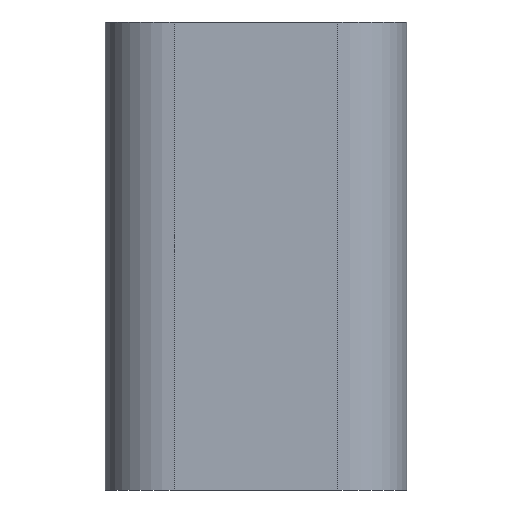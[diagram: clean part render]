
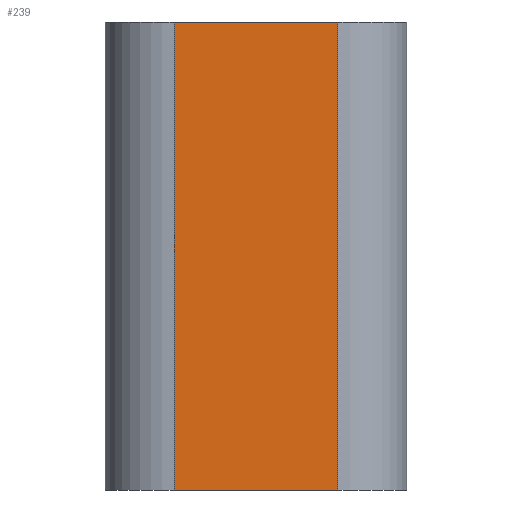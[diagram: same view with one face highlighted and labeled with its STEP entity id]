
A CAD part, front view. The second image highlights one B-rep face of the part: STEP entity #239.
In plain terms, the highlighted planar face has unit normal (0, -1, 0).
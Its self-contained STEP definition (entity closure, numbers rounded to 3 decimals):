
#187=CARTESIAN_POINT('Vertex',(-7.,-11.,0.)) ;
#190=CARTESIAN_POINT('Line Origine',(-7.,-11.,37.3)) ;
#194=CARTESIAN_POINT('Vertex',(-7.,-11.,74.6)) ;
#209=CARTESIAN_POINT('Axis2P3D Location',(19.,-11.,0.)) ;
#214=CARTESIAN_POINT('Line Origine',(6.,-11.,0.)) ;
#218=CARTESIAN_POINT('Vertex',(19.,-11.,0.)) ;
#221=CARTESIAN_POINT('Line Origine',(19.,-11.,37.3)) ;
#225=CARTESIAN_POINT('Vertex',(19.,-11.,74.6)) ;
#228=CARTESIAN_POINT('Line Origine',(6.,-11.,74.6)) ;
#191=DIRECTION('Vector Direction',(0.,0.,1.)) ;
#210=DIRECTION('Axis2P3D Direction',(0.,1.,-0.)) ;
#211=DIRECTION('Axis2P3D XDirection',(-1.,0.,0.)) ;
#215=DIRECTION('Vector Direction',(-1.,0.,0.)) ;
#222=DIRECTION('Vector Direction',(0.,0.,1.)) ;
#229=DIRECTION('Vector Direction',(1.,0.,0.)) ;
#212=AXIS2_PLACEMENT_3D('Plane Axis2P3D',#209,#210,#211) ;
#234=ORIENTED_EDGE('',*,*,#196,.F.) ;
#235=ORIENTED_EDGE('',*,*,#220,.T.) ;
#236=ORIENTED_EDGE('',*,*,#227,.T.) ;
#237=ORIENTED_EDGE('',*,*,#232,.F.) ;
#192=VECTOR('Line Direction',#191,1.) ;
#216=VECTOR('Line Direction',#215,1.) ;
#223=VECTOR('Line Direction',#222,1.) ;
#230=VECTOR('Line Direction',#229,1.) ;
#239=ADVANCED_FACE('Corps principal',(#238),#213,.F.) ;
#196=EDGE_CURVE('',#188,#195,#193,.T.) ;
#220=EDGE_CURVE('',#188,#219,#217,.F.) ;
#227=EDGE_CURVE('',#219,#226,#224,.T.) ;
#232=EDGE_CURVE('',#195,#226,#231,.T.) ;
#233=EDGE_LOOP('',(#234,#235,#236,#237)) ;
#238=FACE_OUTER_BOUND('',#233,.T.) ;
#193=LINE('Line',#190,#192) ;
#217=LINE('Line',#214,#216) ;
#224=LINE('Line',#221,#223) ;
#231=LINE('Line',#228,#230) ;
#213=PLANE('Plane',#212) ;
#188=VERTEX_POINT('',#187) ;
#195=VERTEX_POINT('',#194) ;
#219=VERTEX_POINT('',#218) ;
#226=VERTEX_POINT('',#225) ;
